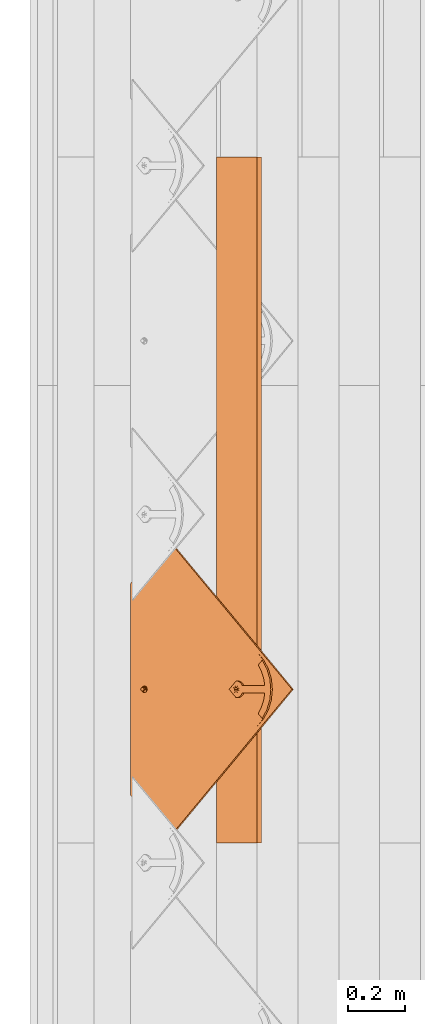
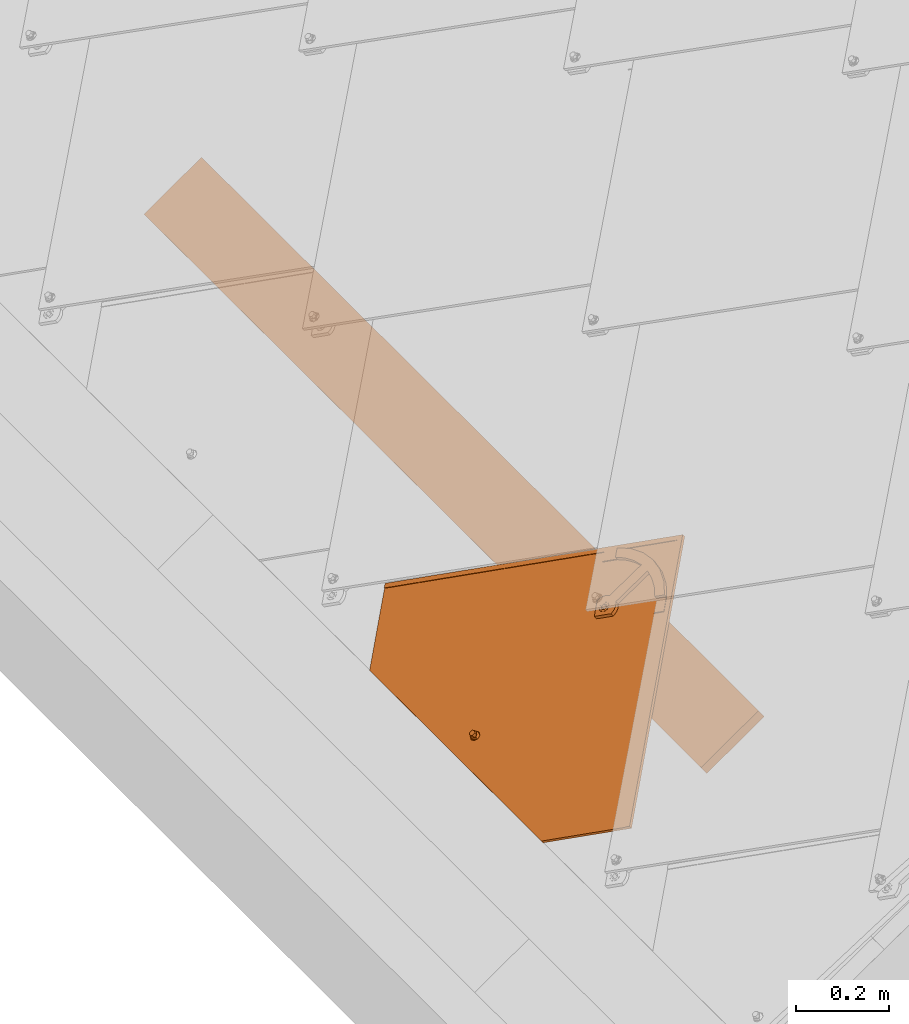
# One storey, part 45 of 133: 2 proxies, 1 element without a shape of its own.
"""IFC2X3 building model written with IfcOpenShell, lengths in millimetres."""

from ifc_helpers import new_model, entity, si_unit, converted_unit, derived_unit, direction, frame, frame_2d, origin, place, context, subcontext, project, spatial, rectangle, extrude, faceted_brep, source, transform, mapped, material, material_list, type_object, type_shapes, element, aggregate, save


model = new_model("IFC2X3")

# Units and contexts
model_context = context("Model", 3, precision=0.01, world=origin(), true_north=direction((6.12303176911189e-17, 1.0)))
body_context = subcontext(model_context, "Body", "Model", "MODEL_VIEW")
ifc_project = project(units=[si_unit("LENGTHUNIT", "METRE", prefix="MILLI"), si_unit("AREAUNIT", "SQUARE_METRE"), si_unit("VOLUMEUNIT", "CUBIC_METRE"), converted_unit("PLANEANGLEUNIT", "DEGREE", entity("IfcRatioMeasure", 0.0174532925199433), si_unit("PLANEANGLEUNIT", "RADIAN"), dimensions=[0, 0, 0, 0, 0, 0, 0]), si_unit("MASSUNIT", "GRAM", prefix="KILO"), derived_unit("MASSDENSITYUNIT", [(si_unit("MASSUNIT", "GRAM", prefix="KILO"), 1), (si_unit("LENGTHUNIT", "METRE"), -3)]), si_unit("TIMEUNIT", "SECOND"), si_unit("FREQUENCYUNIT", "HERTZ"), si_unit("THERMODYNAMICTEMPERATUREUNIT", "DEGREE_CELSIUS"), derived_unit("THERMALTRANSMITTANCEUNIT", [(si_unit("MASSUNIT", "GRAM", prefix="KILO"), 1), (si_unit("THERMODYNAMICTEMPERATUREUNIT", "KELVIN"), -1), (si_unit("TIMEUNIT", "SECOND"), -3)]), derived_unit("VOLUMETRICFLOWRATEUNIT", [(si_unit("LENGTHUNIT", "METRE"), 3), (si_unit("TIMEUNIT", "SECOND"), -1)]), si_unit("ELECTRICCURRENTUNIT", "AMPERE"), si_unit("ELECTRICVOLTAGEUNIT", "VOLT"), si_unit("POWERUNIT", "WATT"), si_unit("FORCEUNIT", "NEWTON", prefix="KILO"), si_unit("ILLUMINANCEUNIT", "LUX"), si_unit("LUMINOUSFLUXUNIT", "LUMEN"), si_unit("LUMINOUSINTENSITYUNIT", "CANDELA"), derived_unit("USERDEFINED", [(si_unit("MASSUNIT", "GRAM", prefix="KILO"), -1), (si_unit("LENGTHUNIT", "METRE"), -2), (si_unit("TIMEUNIT", "SECOND"), 3), (si_unit("LUMINOUSFLUXUNIT", "LUMEN"), 1)]), derived_unit("LINEARVELOCITYUNIT", [(si_unit("LENGTHUNIT", "METRE"), 1), (si_unit("TIMEUNIT", "SECOND"), -1)]), si_unit("PRESSUREUNIT", "PASCAL"), derived_unit("USERDEFINED", [(si_unit("LENGTHUNIT", "METRE"), -2), (si_unit("MASSUNIT", "GRAM", prefix="KILO"), 1), (si_unit("TIMEUNIT", "SECOND"), -2)])], contexts=[model_context])

# Site, building, storey
site_placement = place(None, origin())
site = spatial("IfcSite", under=ifc_project, at=site_placement, Name="Default", CompositionType="ELEMENT")
building_placement = place(site_placement, origin())
building = spatial("IfcBuilding", under=site, at=building_placement, CompositionType="ELEMENT")
storey_placement = place(building_placement, origin())
storey = spatial("IfcBuildingStorey", under=building, at=storey_placement, Name="Level 1", CompositionType="ELEMENT", Elevation=0.0)

# Assembly, proxy
assembly_placement = place(storey_placement, origin())
assembly = element("IfcElementAssembly", 1, at=assembly_placement, inside=storey, Name="Structural Framing Assembly:Roof Construction Assembly", ObjectType="Structural Framing Assembly:Roof Construction Assembly", AssemblyPlace="NOTDEFINED", PredefinedType="USERDEFINED")
ifc_material_1 = material(Name="Wood - Generic - Wood For Showcase")
building_element_proxy_type_1 = type_object("IfcBuildingElementProxyType", Name="Structural Framing 15", PredefinedType="NOTDEFINED", material=ifc_material_1)
shared_shape_1 = source(origin(), body_context, "Body", "SweptSolid", [
    extrude(rectangle(XDim=24.9999999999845, YDim=174.344679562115, at=frame_2d((-1.77635683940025e-13, -4.54747350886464e-13), x_axis=(0.0, 1.0))), frame((1128.20180147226, 1525.55080214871, 2760.23940055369), z_axis=(0.0, 1.0, 0.0), x_axis=(-0.819152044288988, 0.0, -0.573576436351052)), (0.0, 0.0, 1.0), 2400.0),
])
type_shapes(building_element_proxy_type_1, [shared_shape_1])
proxy_1_placement = place(assembly_placement, frame((-3141.92561483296, -2470.0, -2200.0)))
proxy_1 = element("IfcBuildingElementProxy", 2, at=proxy_1_placement, type_object=building_element_proxy_type_1, material=ifc_material_1, Name="Structural Framing 126:Structural Framing 15", ObjectType="Structural Framing 126:Structural Framing 15", context=body_context, shape_type="MappedRepresentation", body=[
    mapped(shared_shape_1, transform((0.0, 0.0, 0.0), scale=1.0)),
])
aggregate(assembly, [proxy_1])

# Proxy
ifc_material_2 = material(Name="Rubber - Sunstyle - Black")
ifc_material_3 = material(Name="Glass - Sunstyle - Tainted Black")
ifc_material_list_1 = material_list([ifc_material_2, ifc_material_3])
ifc_material_list_2 = material_list([ifc_material_2, ifc_material_3])
building_element_proxy_type_2 = type_object("IfcBuildingElementProxyType", Name="Shingle Bottom - Black", PredefinedType="NOTDEFINED", material=ifc_material_list_2)
shared_shape_2 = source(origin(), body_context, "Body", "Brep", [
    faceted_brep([(0.0, -1.79273515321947, -4.01619789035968), (-5.7742028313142, -5.12600528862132, -3.96037390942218), (-5.77420283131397, -4.75769619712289, 18.0314954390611), (0.0, -1.42442606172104, 17.9756714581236), (-5.77420283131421, -11.792545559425, -3.84872594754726), (-5.77420283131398, -11.4242364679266, 18.143143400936), (0.0, -15.1258156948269, -3.79290196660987), (0.0, -14.7575066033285, 18.1989673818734), (5.77420283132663, -11.7925455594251, -3.84872594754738), (5.77420283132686, -11.4242364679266, 18.1431434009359), (5.77420283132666, -5.12600528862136, -3.96037390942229), (5.77420283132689, -4.75769619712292, 18.031495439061), (-8.60370416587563, -16.6934641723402, 18.2313898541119), (0.0, -20.2567354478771, 18.2910657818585), (-12.1674751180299, -8.09096633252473, 18.0873194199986), (-8.60370416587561, 0.511531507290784, 17.9432489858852), (0.0, 4.07480278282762, 17.8835730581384), (8.60370416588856, 0.511531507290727, 17.9432489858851), (12.1674751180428, -8.09096633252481, 18.0873194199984), (8.60370416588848, -16.6934641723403, 18.2313898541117), (-11.4302228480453, -6.71737066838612, 20.4858706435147), (-9.77051349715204, -8.02009729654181, 22.3189355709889), (0.0, -0.706876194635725, 22.9603444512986), (0.0, 0.533621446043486, 22.3799978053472), (0.0, 2.69117229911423, 21.3706227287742), (-6.32324569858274, -4.35709193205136, 23.021476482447), (-6.32324569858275, -11.6575234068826, 23.1437405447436), (0.0, -18.7571148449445, 21.7298281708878), (0.0, -15.3077391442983, 23.2048725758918), (10.9851748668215, -11.808022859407, 20.3827540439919), (10.123850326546, -8.02413622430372, 22.0777687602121), (6.32324569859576, -4.3570919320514, 23.0214764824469), (6.32324569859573, -11.6575234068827, 23.1437405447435), (-6.32324569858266, -11.5234949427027, 31.146628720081), (0.0, -15.1737106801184, 31.2077607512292), (0.0, -7.8732792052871, 31.0854966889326), (-6.32324569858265, -4.22306346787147, 31.0243646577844), (6.32324569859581, -11.5234949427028, 31.1466287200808), (6.32324569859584, -4.22306346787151, 31.0243646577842), (0.0, -0.57284773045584, 30.963232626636), (0.0, -8.45927542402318, -3.90454992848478)], [[[0, 1, 2, 3]], [[1, 4, 5, 2]], [[4, 6, 7, 5]], [[6, 8, 9, 7]], [[8, 10, 11, 9]], [[10, 0, 3, 11]], [[12, 7, 13]], [[7, 12, 5]], [[14, 5, 12]], [[5, 14, 2]], [[15, 2, 14]], [[3, 2, 15]], [[15, 16, 3]], [[16, 17, 3]], [[11, 3, 17]], [[11, 17, 18]], [[9, 11, 18]], [[18, 19, 9]], [[7, 9, 19]], [[19, 13, 7]], [[15, 20, 16]], [[21, 22, 23, 24]], [[22, 21, 25]], [[20, 14, 12]], [[15, 14, 20]], [[25, 21, 26]], [[20, 24, 16]], [[12, 13, 27]], [[12, 27, 20]], [[21, 28, 26]], [[21, 27, 28]], [[20, 21, 24]], [[20, 27, 21]], [[19, 29, 13]], [[30, 23, 31]], [[30, 28, 27]], [[24, 23, 30]], [[29, 27, 13]], [[19, 18, 29]], [[29, 30, 27]], [[29, 17, 24]], [[24, 17, 16]], [[31, 32, 30]], [[23, 22, 31]], [[28, 30, 32]], [[29, 24, 30]], [[29, 18, 17]], [[33, 34, 35]], [[35, 36, 33]], [[34, 37, 35]], [[38, 35, 37]], [[35, 38, 39]], [[35, 39, 36]], [[40, 6, 4]], [[4, 1, 40]], [[1, 0, 40]], [[40, 8, 6]], [[0, 10, 40]], [[8, 40, 10]], [[22, 25, 36, 39]], [[25, 26, 33, 36]], [[26, 28, 34, 33]], [[28, 32, 37, 34]], [[32, 31, 38, 37]], [[31, 22, 39, 38]]]),
    faceted_brep([(0.0, 372.824876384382, 20.3195200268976), (0.0, 377.324245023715, 20.2441667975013), (-8.60370416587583, 376.388147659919, 20.2598440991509), (8.60370416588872, 376.388147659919, 20.2598440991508), (6.64022859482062, 381.157445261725, 20.1799702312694), (12.1674751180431, 384.990645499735, 20.1157736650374), (6.64022859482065, 388.823845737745, 20.0515770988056), (8.6037041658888, 393.59314333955, 19.9717032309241), (0.0, 392.657045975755, 19.9873805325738), (0.0, 397.156414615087, 19.9120273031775), (-8.60370416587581, 393.59314333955, 19.9717032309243), (-6.64022859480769, 388.823845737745, 20.0515770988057), (-12.1674751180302, 384.990645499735, 20.1157736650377), (-6.6402285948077, 381.157445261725, 20.1799702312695), (-6.6402282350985, 388.555922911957, 4.05382046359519), (0.0, 392.389122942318, 3.98962390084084), (-6.64022823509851, 380.889522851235, 4.18221358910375), (0.0, 377.056322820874, 4.24641015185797), (6.64022823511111, 380.889522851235, 4.18221358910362), (6.64022823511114, 388.555922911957, 4.05382046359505), (-8.603704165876, 376.12022504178, 4.26208746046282), (0.0, 372.556953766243, 4.32176338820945), (-12.1674751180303, 384.722722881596, 4.11801702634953), (-8.60370416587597, 393.325220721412, 3.97394659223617), (0.0, 396.888491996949, 3.91427066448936), (8.60370416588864, 393.325220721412, 3.97394659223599), (12.1674751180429, 384.722722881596, 4.11801702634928), (8.60370416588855, 376.12022504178, 4.26208746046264)], [[[0, 1, 2]], [[1, 0, 3]], [[3, 4, 1]], [[4, 3, 5]], [[6, 4, 5]], [[5, 7, 6]], [[7, 8, 6]], [[8, 7, 9]], [[8, 9, 10]], [[10, 11, 8]], [[12, 11, 10]], [[2, 13, 12]], [[12, 13, 11]], [[13, 2, 1]], [[8, 11, 14, 15]], [[11, 13, 16, 14]], [[13, 1, 17, 16]], [[1, 4, 18, 17]], [[4, 6, 19, 18]], [[6, 8, 15, 19]], [[20, 17, 21]], [[17, 20, 16]], [[22, 16, 20]], [[14, 16, 22]], [[23, 14, 22]], [[15, 14, 23]], [[23, 24, 15]], [[24, 25, 15]], [[19, 15, 25]], [[19, 25, 26]], [[26, 18, 19]], [[26, 27, 18]], [[17, 18, 27]], [[27, 21, 17]], [[24, 23, 10, 9]], [[10, 23, 22, 12]], [[20, 21, 0, 2]], [[20, 2, 12, 22]], [[21, 27, 3, 0]], [[3, 27, 26, 5]], [[25, 24, 9, 7]], [[25, 7, 5, 26]]]),
    faceted_brep([(518.247351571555, 79.9143812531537, 14.965257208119), (526.732038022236, 88.3990677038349, 14.8231598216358), (526.732038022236, 88.4241854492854, 16.3229495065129), (518.247351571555, 79.9394989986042, 16.4650468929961), (0.000322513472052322, 598.016093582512, 6.28834266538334), (-518.246706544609, 79.9143812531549, 14.9652572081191), (-526.73139299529, 88.3990677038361, 14.8231598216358), (0.000322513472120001, 614.983087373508, 6.00418773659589), (0.000322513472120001, 615.008205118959, 7.50397742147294), (-526.731392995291, 88.4241854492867, 16.3229495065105), (-518.246706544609, 79.9394989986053, 16.465046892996), (0.000322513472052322, 598.041211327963, 7.78813235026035)], [[[0, 1, 2, 3]], [[1, 0, 4, 5, 6, 7]], [[2, 1, 7, 8]], [[3, 2, 8, 9, 10, 11]], [[0, 3, 11, 4]], [[5, 10, 9, 6]], [[8, 7, 6, 9]], [[4, 11, 10, 5]]]),
    faceted_brep([(0.00032251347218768, 614.983087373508, 6.00418773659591), (-2.87802047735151, 396.187349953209, 9.66847193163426), (0.227808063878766, 396.596182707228, 9.6616250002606), (-5.77219193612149, 394.988712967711, 9.68854611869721), (3.3336366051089, 396.187349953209, 9.66847193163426), (6.22780806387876, 394.988712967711, 9.6885461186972), (8.71308943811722, 393.081956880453, 9.72047953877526), (10.620112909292, 390.59702396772, 9.76209598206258), (-8.25747331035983, 393.081956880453, 9.72047953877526), (-10.1644967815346, 390.59702396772, 9.76209598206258), (-11.3633018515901, 387.703258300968, 9.81055935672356), (-526.731392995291, 88.3990677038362, 14.8231598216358), (11.8189179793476, 387.703258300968, 9.81055935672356), (526.732038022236, 88.3990677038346, 14.8231598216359), (-11.7721919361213, 384.597865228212, 9.86256696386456), (-11.3633018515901, 381.492472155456, 9.91457457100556), (-10.1644967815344, 378.598706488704, 9.96303794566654), (-370.355016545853, -67.9334607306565, 17.4413406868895), (-8.25747331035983, 376.113773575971, 10.0046543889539), (-5.65685424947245, -2.29422365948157, 16.3420467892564), (-6.92820323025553, -3.95084560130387, 16.3697910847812), (-7.72740661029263, -5.88002271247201, 16.4021000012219), (-8.0, -7.95028476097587, 16.4367717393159), (-7.72740661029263, -10.0205468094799, 16.4714434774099), (-6.9282032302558, -11.9497239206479, 16.5037523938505), (-5.65685424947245, -13.6063458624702, 16.5314966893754), (-4.0, -14.8775165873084, 16.5527856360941), (-2.07055236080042, -15.676607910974, 16.5661684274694), (0.0, -15.9491630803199, 16.5707330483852), (370.355661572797, -67.9334607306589, 17.4413406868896), (10.620112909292, 378.598706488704, 9.96303794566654), (8.71308943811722, 376.11377357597, 10.0046543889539), (5.65685424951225, -2.29422365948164, 16.3420467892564), (6.92820323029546, -3.9508456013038, 16.3697910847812), (7.72740661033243, -5.88002271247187, 16.4021000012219), (8.0, -7.9502847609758, 16.4367717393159), (7.72740661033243, -10.0205468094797, 16.4714434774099), (6.92820323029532, -11.9497239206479, 16.5037523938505), (5.65685424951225, -13.6063458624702, 16.5314966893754), (4.0, -14.8775165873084, 16.5527856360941), (2.07055236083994, -15.676607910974, 16.5661684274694), (-5.77219193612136, 374.207017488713, 10.0365878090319), (-4.0, -1.02305293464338, 16.3207578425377), (-2.87802047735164, 373.008380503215, 10.0566619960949), (-2.07055236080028, -0.223961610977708, 16.3073750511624), (0.227808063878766, 372.599547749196, 10.0635089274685), (0.0, 0.0485935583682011, 16.3028104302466), (2.07055236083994, -0.223961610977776, 16.3073750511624), (3.3336366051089, 373.008380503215, 10.0566619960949), (4.0, -1.02305293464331, 16.3207578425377), (6.22780806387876, 374.207017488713, 10.0365878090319), (12.2278080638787, 384.597865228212, 9.86256696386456), (11.8189179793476, 381.492472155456, 9.91457457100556), (-370.355016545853, -68.059049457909, 9.94239226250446), (-6.92820323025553, -4.07643432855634, 8.87084266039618), (-7.72740661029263, -6.00561143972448, 8.90315157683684), (-8.0, -8.07587348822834, 8.93782331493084), (-7.72740661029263, -10.1461355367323, 8.97249505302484), (-6.9282032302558, -12.0753126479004, 9.00480396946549), (-5.65685424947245, -13.7319345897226, 9.03254826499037), (-5.65685424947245, -2.41981238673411, 8.8430983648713), (-8.25747331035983, 375.988184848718, 2.50570596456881), (-4.0, -15.0031053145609, 9.05383721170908), (-2.07055236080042, -15.8021966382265, 9.06722000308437), (0.0, -16.0747518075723, 9.07178462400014), (370.355661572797, -68.0590494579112, 9.9423922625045), (-10.1644967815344, 378.473117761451, 2.46408952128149), (-526.731392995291, 88.2734789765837, 7.32421139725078), (-11.3633018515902, 381.366883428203, 2.41562614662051), (-11.7721919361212, 384.472276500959, 2.36361853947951), (-11.3633018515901, 387.577669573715, 2.3116109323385), (0.00032251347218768, 614.857498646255, -1.49476068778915), (-10.1644967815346, 390.471435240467, 2.26314755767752), (-8.25747331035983, 392.956368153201, 2.22153111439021), (-5.77219193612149, 394.863124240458, 2.18959769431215), (-2.87802047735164, 396.061761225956, 2.16952350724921), (0.227808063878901, 396.470593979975, 2.16267657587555), (3.3336366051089, 396.061761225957, 2.1695235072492), (6.22780806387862, 394.863124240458, 2.18959769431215), (8.71308943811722, 392.956368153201, 2.2215311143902), (10.620112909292, 390.471435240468, 2.26314755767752), (11.8189179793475, 387.577669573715, 2.31161093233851), (526.732038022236, 88.2734789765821, 7.32421139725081), (12.2278080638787, 384.472276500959, 2.3636185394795), (10.620112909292, 378.473117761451, 2.46408952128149), (11.8189179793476, 381.366883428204, 2.41562614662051), (-5.77219193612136, 374.08142876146, 2.53763938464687), (-4.0, -1.14864166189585, 8.8218094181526), (-2.87802047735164, 372.882791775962, 2.55771357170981), (-2.07055236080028, -0.349550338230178, 8.8084266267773), (0.227808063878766, 372.473959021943, 2.56456050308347), (0.0, -0.0769951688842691, 8.80386200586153), (2.07055236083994, -0.349550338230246, 8.8084266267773), (3.3336366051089, 372.882791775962, 2.55771357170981), (4.0, -1.14864166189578, 8.8218094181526), (6.22780806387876, 374.081428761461, 2.53763938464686), (5.65685424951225, -2.41981238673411, 8.8430983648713), (8.71308943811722, 375.988184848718, 2.50570596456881), (6.92820323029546, -4.07643432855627, 8.87084266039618), (7.72740661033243, -6.00561143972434, 8.90315157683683), (8.0, -8.07587348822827, 8.93782331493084), (7.72740661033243, -10.1461355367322, 8.97249505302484), (6.92820323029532, -12.0753126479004, 9.00480396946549), (5.65685424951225, -13.7319345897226, 9.03254826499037), (4.0, -15.0031053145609, 9.05383721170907), (2.07055236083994, -15.8021966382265, 9.06722000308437)], [[[0, 1, 2]], [[1, 0, 3]], [[0, 2, 4]], [[4, 5, 0]], [[5, 6, 0]], [[0, 6, 7]], [[8, 3, 0]], [[9, 8, 0]], [[9, 0, 10]], [[10, 0, 11]], [[12, 0, 7]], [[12, 13, 0]], [[11, 14, 10]], [[14, 11, 15]], [[16, 15, 11]], [[11, 17, 16]], [[16, 17, 18]], [[19, 18, 17]], [[19, 17, 20]], [[20, 17, 21]], [[22, 21, 17]], [[22, 17, 23]], [[24, 23, 17]], [[17, 25, 24]], [[26, 25, 17]], [[27, 26, 17]], [[17, 28, 27]], [[28, 17, 29]], [[29, 13, 30]], [[29, 30, 31]], [[29, 31, 32]], [[32, 33, 29]], [[33, 34, 29]], [[35, 29, 34]], [[29, 35, 36]], [[36, 37, 29]], [[29, 37, 38]], [[38, 39, 29]], [[40, 28, 29]], [[39, 40, 29]], [[41, 18, 19]], [[42, 41, 19]], [[42, 43, 41]], [[44, 43, 42]], [[44, 45, 43]], [[46, 45, 44]], [[47, 45, 46]], [[48, 45, 47]], [[49, 48, 47]], [[49, 50, 48]], [[32, 50, 49]], [[32, 31, 50]], [[12, 51, 13]], [[52, 13, 51]], [[13, 52, 30]], [[53, 54, 55]], [[53, 55, 56]], [[56, 57, 53]], [[57, 58, 53]], [[53, 58, 59]], [[60, 54, 53]], [[61, 60, 53]], [[59, 62, 53]], [[62, 63, 53]], [[63, 64, 53]], [[53, 64, 65]], [[66, 61, 53]], [[66, 53, 67]], [[68, 66, 67]], [[69, 68, 67]], [[69, 67, 70]], [[67, 71, 70]], [[72, 70, 71]], [[73, 72, 71]], [[71, 74, 73]], [[74, 71, 75]], [[75, 71, 76]], [[77, 76, 71]], [[77, 71, 78]], [[79, 78, 71]], [[71, 80, 79]], [[80, 71, 81]], [[71, 82, 81]], [[83, 81, 82]], [[84, 82, 65]], [[85, 82, 84]], [[82, 85, 83]], [[86, 60, 61]], [[86, 87, 60]], [[88, 87, 86]], [[89, 87, 88]], [[90, 89, 88]], [[90, 91, 89]], [[92, 91, 90]], [[92, 90, 93]], [[94, 92, 93]], [[93, 95, 94]], [[94, 95, 96]], [[97, 96, 95]], [[96, 97, 65]], [[84, 65, 97]], [[98, 96, 65]], [[99, 98, 65]], [[99, 65, 100]], [[101, 100, 65]], [[102, 101, 65]], [[103, 102, 65]], [[104, 103, 65]], [[105, 104, 65]], [[65, 64, 105]], [[11, 0, 71, 67]], [[17, 11, 67, 53]], [[13, 29, 65, 82]], [[0, 13, 82, 71]], [[22, 56, 55, 21]], [[21, 55, 54, 20]], [[42, 19, 60, 87]], [[60, 19, 20, 54]], [[44, 42, 87, 89]], [[44, 89, 91, 46]], [[46, 91, 92, 47]], [[47, 92, 94, 49]], [[33, 32, 96, 98]], [[96, 32, 49, 94]], [[34, 33, 98, 99]], [[34, 99, 100, 35]], [[35, 100, 101, 36]], [[36, 101, 102, 37]], [[39, 38, 103, 104]], [[103, 38, 37, 102]], [[40, 39, 104, 105]], [[40, 105, 64, 28]], [[28, 64, 63, 27]], [[27, 63, 62, 26]], [[24, 25, 59, 58]], [[59, 25, 26, 62]], [[23, 24, 58, 57]], [[23, 57, 56, 22]], [[14, 69, 70, 10]], [[10, 70, 72, 9]], [[3, 8, 73, 74]], [[73, 8, 9, 72]], [[1, 3, 74, 75]], [[1, 75, 76, 2]], [[2, 76, 77, 4]], [[4, 77, 78, 5]], [[7, 6, 79, 80]], [[79, 6, 5, 78]], [[12, 7, 80, 81]], [[12, 81, 83, 51]], [[51, 83, 85, 52]], [[52, 85, 84, 30]], [[50, 31, 97, 95]], [[97, 31, 30, 84]], [[48, 50, 95, 93]], [[48, 93, 90, 45]], [[45, 90, 88, 43]], [[43, 88, 86, 41]], [[16, 18, 61, 66]], [[41, 86, 61, 18]], [[68, 15, 16, 66]], [[15, 68, 69, 14]], [[29, 17, 53, 65]]]),
    faceted_brep([(-111.269043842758, 451.472531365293, 11.2429332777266), (-84.9443960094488, 477.793488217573, 10.8021227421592), (-102.027571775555, 494.874268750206, 10.5160621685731), (-108.279973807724, 489.512620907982, 10.6058564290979), (-114.2509690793, 483.839345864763, 10.7008696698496), (-128.946713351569, 469.147722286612, 10.9469178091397), (128.946713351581, 469.147722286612, 10.9469178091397), (114.250969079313, 483.839345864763, 10.7008696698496), (108.279973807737, 489.512620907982, 10.6058564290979), (102.027571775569, 494.874268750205, 10.5160621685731), (84.9431983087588, 477.794685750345, 10.802102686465), (111.269043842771, 451.472531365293, 11.2429332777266), (-8.48528137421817, 393.302959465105, 19.7181805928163), (-18.7041061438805, 407.484939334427, 19.4806677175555), (-23.2046504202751, 402.851933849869, 19.5582590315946), (-10.3923048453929, 390.818026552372, 19.7597970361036), (-6.0, 395.209715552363, 19.6862471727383), (-13.2999999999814, 411.02298750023, 19.4214142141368), (-3.10582854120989, 396.408352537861, 19.6661729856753), (0.0, 396.81718529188, 19.6593260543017), (13.3000000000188, 411.022987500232, 19.4214142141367), (3.10582854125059, 396.408352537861, 19.6661729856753), (6.0, 395.209715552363, 19.6862471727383), (18.7041061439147, 407.484939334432, 19.4806677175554), (8.48528137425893, 393.302959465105, 19.7181805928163), (23.2046504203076, 402.85193384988, 19.5582590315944), (10.3923048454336, 390.818026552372, 19.7597970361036), (26.5842195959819, 397.347783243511, 19.6504398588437), (11.5911099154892, 387.92426088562, 19.8082604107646), (28.6795527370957, 391.238383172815, 19.752757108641), (12.0, 384.818867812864, 19.8602680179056), (29.3894280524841, 384.818867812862, 19.8602680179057), (11.5911099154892, 381.713474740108, 19.9122756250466), (10.3923048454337, 378.819709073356, 19.9607389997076), (8.48528137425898, 376.334776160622, 20.0023554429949), (0.0, 355.433560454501, 20.3523987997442), (6.0, 374.428020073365, 20.034288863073), (3.10582854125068, 373.229383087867, 20.0543630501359), (0.0, 372.820550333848, 20.0612099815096), (-3.10582854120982, 373.229383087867, 20.0543630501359), (-6.0, 374.428020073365, 20.034288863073), (-8.48528137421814, 376.334776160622, 20.0023554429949), (-29.3894280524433, 384.818867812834, 19.8602680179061), (-10.3923048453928, 378.819709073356, 19.9607389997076), (-11.5911099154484, 381.713474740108, 19.9122756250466), (-12.0, 384.818867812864, 19.8602680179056), (-28.67955273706, 391.238383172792, 19.7527571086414), (-11.5911099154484, 387.92426088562, 19.8082604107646), (-26.5842195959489, 397.347783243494, 19.650439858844), (-13.2999999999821, 505.810987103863, 17.833951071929), (13.3000000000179, 505.810987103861, 17.833951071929), (0.0, 531.282600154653, 17.4073649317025), (36.4908407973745, 527.108634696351, 17.4772684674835), (38.7697427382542, 500.996106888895, 17.9145883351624), (71.096085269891, 514.802420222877, 17.6833669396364), (62.9243331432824, 491.592473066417, 18.0720758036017), (102.027571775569, 494.999857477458, 18.0150105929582), (84.9443960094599, 477.919076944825, 18.3010711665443), (-36.4908407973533, 527.108634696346, 17.4772684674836), (-38.7697427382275, 500.996106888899, 17.9145883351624), (-71.0960852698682, 514.802420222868, 17.6833669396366), (-62.9243331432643, 491.592473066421, 18.0720758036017), (-102.027571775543, 494.999857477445, 18.0150105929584), (-84.9443960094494, 477.919076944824, 18.3010711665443), (0.0, 355.266108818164, 10.3538009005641), (0.0, 372.653098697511, 10.0626120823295), (3.10582854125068, 373.06193145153, 10.0557651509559), (-3.10582854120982, 373.06193145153, 10.0557651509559), (6.0, 374.260568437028, 10.0356909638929), (8.48528137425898, 376.167324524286, 10.0037575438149), (29.3894280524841, 384.651416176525, 9.86167011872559), (-6.0, 374.260568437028, 10.0356909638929), (-8.48528137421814, 376.167324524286, 10.0037575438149), (-29.3894280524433, 384.651416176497, 9.86167011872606), (-10.3923048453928, 378.652257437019, 9.96214110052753), (-11.5911099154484, 381.546023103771, 9.91367772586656), (-12.0, 384.651416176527, 9.86167011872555), (-28.67955273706, 391.070931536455, 9.75415920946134), (-11.5911099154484, 387.756809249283, 9.80966251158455), (-26.5842195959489, 397.180331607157, 9.65184195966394), (-10.3923048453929, 390.650574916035, 9.76119913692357), (-23.2046504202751, 402.684482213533, 9.5596611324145), (-8.48528137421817, 393.135507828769, 9.71958269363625), (-18.7041061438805, 407.31748769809, 9.48206981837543), (-6.0, 395.042263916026, 9.6876492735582), (-13.2999999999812, 410.855535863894, 9.4228163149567), (-3.10582854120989, 396.240900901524, 9.66757508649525), (0.0, 396.649733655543, 9.66072815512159), (13.3000000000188, 410.855535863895, 9.42281631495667), (-13.2999999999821, 505.643535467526, 7.83535317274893), (13.3000000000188, 505.643535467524, 7.83535317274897), (0.0, 531.115148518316, 7.4087670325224), (-36.4908407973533, 526.94118306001, 7.47867056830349), (-38.7697427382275, 500.828655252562, 7.91599043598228), (-71.0960852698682, 514.634968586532, 7.68476904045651), (-62.9243331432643, 491.425021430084, 8.07347790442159), (-102.027571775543, 494.832405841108, 8.01641269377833), (-84.9431983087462, 477.752822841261, 8.30245321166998), (-108.279973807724, 489.470757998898, 8.10620695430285), (-114.2509690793, 483.79748295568, 8.2012201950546), (-111.269043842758, 451.430668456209, 8.74328380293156), (-128.946713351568, 469.105859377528, 8.44726833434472), (36.4908407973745, 526.941183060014, 7.47867056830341), (38.7697427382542, 500.828655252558, 7.91599043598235), (71.096085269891, 514.634968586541, 7.68476904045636), (62.9243331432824, 491.425021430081, 8.07347790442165), (102.027571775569, 494.832405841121, 8.01641269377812), (84.9443960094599, 477.751625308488, 8.30247326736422), (108.279973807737, 489.470757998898, 8.10620695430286), (114.250969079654, 483.797482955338, 8.20122019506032), (111.269043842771, 451.430668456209, 8.74328380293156), (128.946713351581, 469.105859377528, 8.44726833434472), (3.10582854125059, 396.240900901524, 9.66757508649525), (6.0, 395.042263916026, 9.6876492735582), (18.7041061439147, 407.317487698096, 9.48206981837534), (8.48528137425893, 393.135507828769, 9.71958269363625), (23.2046504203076, 402.684482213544, 9.55966113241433), (10.3923048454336, 390.650574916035, 9.76119913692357), (26.5842195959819, 397.180331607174, 9.65184195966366), (11.5911099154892, 387.756809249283, 9.80966251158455), (28.6795527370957, 391.070931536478, 9.75415920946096), (12.0, 384.651416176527, 9.86167011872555), (11.5911099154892, 381.546023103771, 9.91367772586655), (10.3923048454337, 378.652257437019, 9.96214110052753)], [[[0, 1, 2, 3, 4, 5]], [[6, 7, 8, 9, 10, 11]], [[12, 13, 14]], [[15, 12, 14]], [[16, 13, 12]], [[13, 16, 17]], [[17, 16, 18]], [[18, 19, 17]], [[20, 17, 19]], [[19, 21, 20]], [[22, 20, 21]], [[22, 23, 20]], [[22, 24, 23]], [[25, 23, 24]], [[26, 25, 24]], [[25, 26, 27]], [[26, 28, 27]], [[29, 27, 28]], [[28, 30, 29]], [[31, 29, 30]], [[30, 32, 31]], [[32, 33, 31]], [[31, 33, 34]], [[34, 35, 31]], [[34, 36, 35]], [[37, 35, 36]], [[38, 35, 37]], [[35, 38, 39]], [[40, 35, 39]], [[40, 41, 35]], [[42, 35, 41]], [[43, 42, 41]], [[43, 44, 42]], [[44, 45, 42]], [[45, 46, 42]], [[46, 45, 47]], [[48, 46, 47]], [[47, 15, 48]], [[48, 15, 14]], [[20, 49, 17]], [[49, 20, 50]], [[51, 49, 50]], [[50, 52, 51]], [[53, 52, 50]], [[52, 53, 54]], [[55, 54, 53]], [[54, 55, 56]], [[55, 57, 56]], [[58, 49, 51]], [[49, 58, 59]], [[60, 59, 58]], [[60, 61, 59]], [[61, 60, 62]], [[61, 62, 63]], [[64, 65, 66]], [[65, 64, 67]], [[64, 66, 68]], [[68, 69, 64]], [[64, 69, 70]], [[71, 67, 64]], [[71, 64, 72]], [[72, 64, 73]], [[73, 74, 72]], [[74, 73, 75]], [[76, 75, 73]], [[77, 76, 73]], [[76, 77, 78]], [[78, 77, 79]], [[80, 78, 79]], [[81, 80, 79]], [[82, 80, 81]], [[81, 83, 82]], [[83, 84, 82]], [[84, 83, 85]], [[85, 86, 84]], [[87, 86, 85]], [[87, 85, 88]], [[88, 85, 89]], [[88, 89, 90]], [[89, 91, 90]], [[91, 89, 92]], [[93, 92, 89]], [[94, 92, 93]], [[93, 95, 94]], [[95, 96, 94]], [[97, 96, 95]], [[98, 96, 97]], [[99, 98, 97]], [[97, 100, 99]], [[101, 99, 100]], [[102, 90, 91]], [[90, 102, 103]], [[104, 103, 102]], [[103, 104, 105]], [[105, 104, 106]], [[107, 105, 106]], [[107, 106, 108]], [[109, 107, 108]], [[110, 107, 109]], [[111, 110, 109]], [[87, 88, 112]], [[113, 112, 88]], [[114, 113, 88]], [[115, 113, 114]], [[115, 114, 116]], [[116, 117, 115]], [[116, 118, 117]], [[117, 118, 119]], [[119, 118, 120]], [[121, 119, 120]], [[120, 70, 121]], [[122, 121, 70]], [[70, 69, 123]], [[123, 122, 70]], [[17, 49, 89, 85]], [[13, 17, 85, 83]], [[14, 13, 83, 81]], [[81, 79, 48, 14]], [[46, 48, 79, 77]], [[42, 46, 77, 73]], [[35, 42, 73, 64]], [[31, 35, 64, 70]], [[29, 31, 70, 120]], [[27, 29, 120, 118]], [[118, 116, 25, 27]], [[23, 25, 116, 114]], [[20, 23, 114, 88]], [[50, 20, 88, 90]], [[9, 106, 104, 54, 56]], [[52, 54, 104, 102]], [[51, 52, 102, 91]], [[58, 51, 91, 92]], [[94, 96, 2, 62, 60]], [[60, 58, 92, 94]], [[45, 76, 78, 47]], [[47, 78, 80, 15]], [[16, 12, 82, 84]], [[80, 82, 12, 15]], [[18, 16, 84, 86]], [[87, 19, 18, 86]], [[21, 112, 113, 22]], [[22, 113, 115, 24]], [[28, 26, 117, 119]], [[115, 117, 26, 24]], [[30, 28, 119, 121]], [[21, 19, 87, 112]], [[30, 121, 122, 32]], [[32, 122, 123, 33]], [[36, 34, 69, 68]], [[123, 69, 34, 33]], [[37, 36, 68, 66]], [[65, 38, 37, 66]], [[39, 67, 71, 40]], [[40, 71, 72, 41]], [[44, 43, 74, 75]], [[72, 74, 43, 41]], [[45, 44, 75, 76]], [[39, 38, 65, 67]], [[7, 6, 111, 109]], [[6, 11, 110, 111]], [[7, 109, 108, 8]], [[108, 106, 9, 8]], [[11, 10, 107, 110]], [[0, 5, 101, 100]], [[1, 0, 100, 97]], [[2, 96, 98, 3]], [[98, 99, 4, 3]], [[5, 4, 99, 101]], [[63, 62, 2, 1]], [[56, 57, 10]], [[10, 9, 56]], [[1, 95, 61, 63]], [[1, 97, 95]], [[93, 89, 49, 59]], [[95, 93, 59, 61]], [[90, 103, 53, 50]], [[103, 105, 55, 53]], [[10, 57, 55]], [[107, 10, 105]], [[55, 105, 10]]]),
])
type_shapes(building_element_proxy_type_2, [shared_shape_2])
proxy_2_placement = place(storey_placement, frame((-2327.24013143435, -407.060672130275, 355.972593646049), z_axis=(-0.57357643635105, 0.0, 0.819152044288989), x_axis=(0.0, -1.0, 0.0)))
element("IfcBuildingElementProxy", 3, at=proxy_2_placement, inside=storey, type_object=building_element_proxy_type_2, material=ifc_material_list_1, Name="Roofing_Panels_SunStyle_Tile_Shingle-Bottom:Shingle Bottom - Black", ObjectType="Roofing_Panels_SunStyle_Tile_Shingle-Bottom:Shingle Bottom - Black", context=body_context, shape_type="MappedRepresentation", body=[
    mapped(shared_shape_2, transform((0.0, 0.0, 0.0), scale=1.0)),
])

save(model, "model.ifc")
